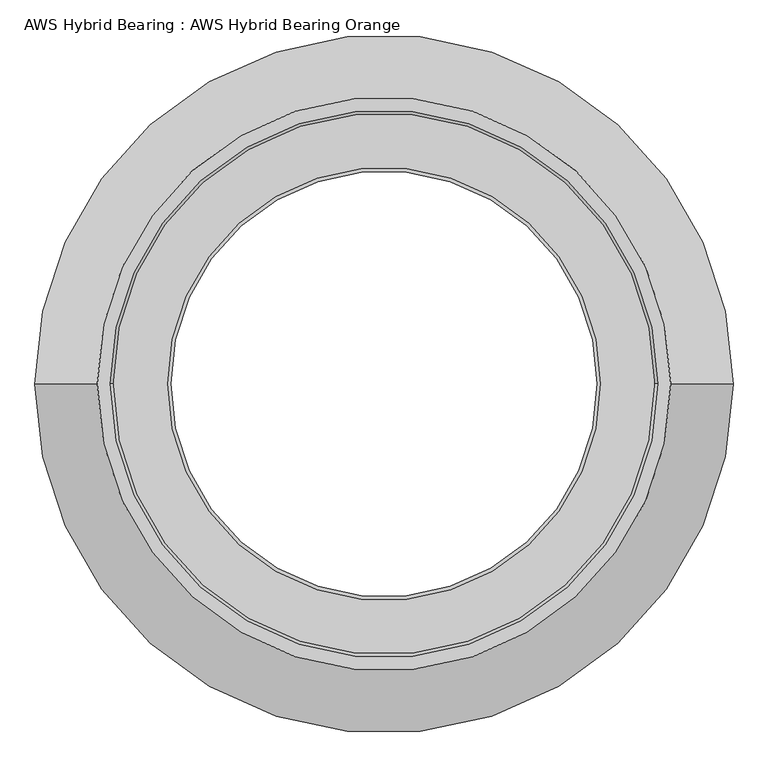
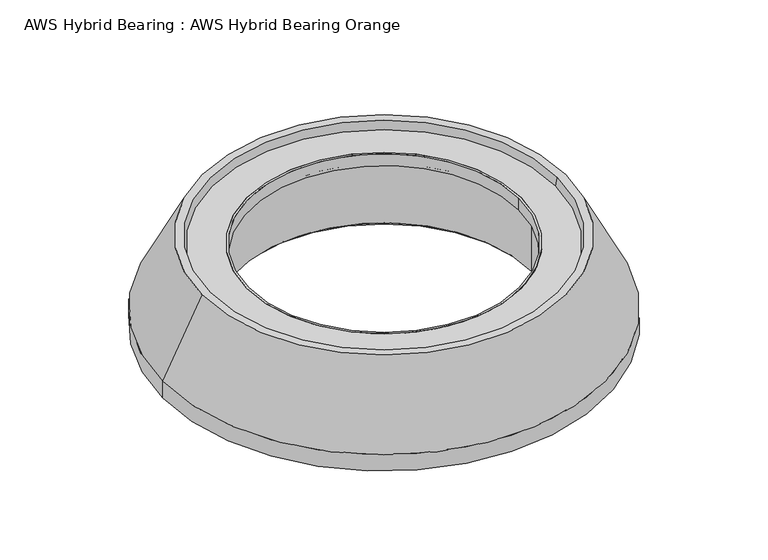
"""IFC4 building model written with IfcOpenShell, lengths in millimetres: proxy geometry, AWS Hybrid Bearing : AWS Hybrid Bearing Orange."""

from ifc_helpers import new_model, si_unit, frame, origin, origin_with_axes, place, context, project, spatial, polyline, circle_curve, source, transform, mapped, element, save
from ifc_brep_helpers import plane_surface, cylinder_surface, revolved_surface, advanced_brep


def aws_hybrid_bearing_aws_hybrid_bearing_orange_4bd7e090(model_context):
    return source(origin(), model_context, "Body", "AdvancedBrep", [
        advanced_brep(
        [(317.5, 0.0, -40.0), (-317.5, 0.0, -40.0), (-317.5, 0.0, -66.3909386), (317.5, 0.0, -66.3909386), (312.5, 0.0, -68.9937739), (-312.5, 0.0, -68.9937739), (-312.5, 0.0, -40.0), (312.5, 0.0, -40.0), (342.5, 0.0, -230.0), (-342.5, 0.0, -230.0), (-342.5, 0.0, -90.0), (342.5, 0.0, -90.0), (347.5, 0.0, -87.3971647), (-347.5, 0.0, -87.3971647), (-347.5, 0.0, -227.9289322), (347.5, 0.0, -227.9289322), (-359.5710678, 0.0, -240.0), (359.5710678, 0.0, -240.0), (352.5, 0.0, -240.0), (-352.5, 0.0, -240.0)],
        [
            (0, 1, circle_curve(frame((0.0, 0.0, -40.0), z_axis=(0.0, 0.0, -1.0), x_axis=(-1.0, 0.0, 0.0)), 317.5)),
            (1, 2),
            (2, 3, circle_curve(frame((0.0, 0.0, -66.3909386), z_axis=(0.0, 0.0, 1.0), x_axis=(-1.0, 0.0, 0.0)), 317.5)),
            (3, 0),
            (4, 5, circle_curve(frame((0.0, 0.0, -68.9937739), z_axis=(0.0, 0.0, -1.0), x_axis=(-1.0, 0.0, 0.0)), 312.5)),
            (5, 6),
            (6, 7, circle_curve(frame((0.0, 0.0, -40.0), z_axis=(0.0, 0.0, 1.0), x_axis=(-1.0, 0.0, 0.0)), 312.5)),
            (7, 4),
            (8, 9, circle_curve(frame((0.0, 0.0, -230.0), z_axis=(0.0, 0.0, -1.0), x_axis=(-1.0, 0.0, 0.0)), 342.5)),
            (9, 10),
            (10, 11, circle_curve(frame((0.0, 0.0, -90.0), z_axis=(0.0, 0.0, 1.0), x_axis=(-1.0, 0.0, 0.0)), 342.5)),
            (11, 8),
            (12, 13, circle_curve(frame((0.0, 0.0, -87.3971647), z_axis=(0.0, 0.0, -1.0), x_axis=(-1.0, 0.0, 0.0)), 347.5)),
            (13, 14),
            (14, 15, circle_curve(frame((0.0, 0.0, -227.9289322), z_axis=(0.0, 0.0, 1.0), x_axis=(-1.0, 0.0, 0.0)), 347.5)),
            (15, 12),
            (1, 0, circle_curve(frame((0.0, 0.0, -40.0), z_axis=(0.0, 0.0, -1.0), x_axis=(1.0, 0.0, 0.0)), 317.5)),
            (3, 2, circle_curve(frame((0.0, 0.0, -66.3909386), z_axis=(0.0, 0.0, 1.0), x_axis=(1.0, 0.0, 0.0)), 317.5)),
            (6, 7, circle_curve(frame((0.0, 0.0, -40.0), z_axis=(0.0, 0.0, -1.0), x_axis=(1.0, 0.0, 0.0)), 312.5)),
            (5, 4, circle_curve(frame((0.0, 0.0, -68.9937739), z_axis=(0.0, 0.0, -1.0), x_axis=(1.0, 0.0, 0.0)), 312.5)),
            (9, 8, circle_curve(frame((0.0, 0.0, -230.0), z_axis=(0.0, 0.0, -1.0), x_axis=(1.0, 0.0, 0.0)), 342.5)),
            (11, 10, circle_curve(frame((0.0, 0.0, -90.0), z_axis=(0.0, 0.0, 1.0), x_axis=(1.0, 0.0, 0.0)), 342.5)),
            (16, 17, circle_curve(frame((0.0, 0.0, -240.0), z_axis=(0.0, 0.0, -1.0), x_axis=(1.0, 0.0, 0.0)), 359.5710678)),
            (17, 16, circle_curve(frame((0.0, 0.0, -240.0), z_axis=(0.0, 0.0, -1.0), x_axis=(-1.0, 0.0, 0.0)), 359.5710678)),
            (18, 19, circle_curve(frame((0.0, 0.0, -240.0), z_axis=(0.0, 0.0, 1.0), x_axis=(1.0, 0.0, 0.0)), 352.5)),
            (19, 18, circle_curve(frame((0.0, 0.0, -240.0), z_axis=(0.0, 0.0, 1.0), x_axis=(-1.0, 0.0, 0.0)), 352.5)),
            (13, 12, circle_curve(frame((0.0, 0.0, -87.3971647), z_axis=(0.0, 0.0, -1.0), x_axis=(1.0, 0.0, 0.0)), 347.5)),
            (15, 14, circle_curve(frame((0.0, 0.0, -227.9289322), z_axis=(0.0, 0.0, 1.0), x_axis=(1.0, 0.0, 0.0)), 347.5)),
            (10, 5),
            (4, 11),
            (19, 9),
            (8, 18),
            (14, 16),
            (17, 15),
            (2, 13),
            (12, 3),
        ],
        [
            cylinder_surface(frame((0.0, 0.0, 0.0), z_axis=(0.0, 0.0, 1.0), x_axis=(-1.0, 0.0, 0.0)), 317.5),
            revolved_surface(polyline([(-312.5, 0.0, -40.0), (-312.5, 0.0, -68.9937739)]), (0.0, 0.0, 0.0), (0.0, 0.0, 1.0)),
            revolved_surface(polyline([(-342.5, 0.0, -90.0), (-342.5, 0.0, -230.0)]), (0.0, 0.0, 0.0), (0.0, 0.0, 1.0)),
            cylinder_surface(frame((0.0, 0.0, 0.0), z_axis=(0.0, 0.0, 1.0), x_axis=(-1.0, 0.0, 0.0)), 347.5),
            cylinder_surface(origin_with_axes(), 317.5),
            plane_surface(frame((0.0, 0.0, -40.0), z_axis=(0.0, 0.0, 1.0), x_axis=(1.0, 0.0, 0.0))),
            revolved_surface(polyline([(312.5, 0.0, -40.0), (312.5, 0.0, -68.9937739)]), (0.0, 0.0, 0.0), (0.0, 0.0, 1.0)),
            revolved_surface(polyline([(342.5, 0.0, -90.0), (342.5, 0.0, -230.0)]), (0.0, 0.0, 0.0), (0.0, 0.0, 1.0)),
            plane_surface(frame((0.0, 0.0, -240.0), z_axis=(0.0, 0.0, -1.0), x_axis=(1.0, 0.0, 0.0))),
            cylinder_surface(origin_with_axes(), 347.5),
            revolved_surface(polyline([(-312.5, 0.0, -68.9937739), (-342.5, 0.0, -90.0)]), (0.0, 0.0, 0.0), (0.0, 0.0, 1.0)),
            revolved_surface(polyline([(-342.5, 0.0, -230.0), (-352.5, 0.0, -240.0)]), (0.0, 0.0, 0.0), (0.0, 0.0, 1.0)),
            revolved_surface(polyline([(-359.5710678, 0.0, -240.0), (-347.5, 0.0, -227.9289322)]), (0.0, 0.0, 0.0), (0.0, 0.0, 1.0)),
            revolved_surface(polyline([(-347.5, 0.0, -87.3971647), (-317.5, 0.0, -66.3909386)]), (0.0, 0.0, 0.0), (0.0, 0.0, 1.0)),
            revolved_surface(polyline([(312.5, 0.0, -68.9937739), (342.5, 0.0, -90.0)]), (0.0, 0.0, 0.0), (0.0, 0.0, 1.0)),
            revolved_surface(polyline([(342.5, 0.0, -230.0), (352.5, 0.0, -240.0)]), (0.0, 0.0, 0.0), (0.0, 0.0, 1.0)),
            revolved_surface(polyline([(359.5710678, 0.0, -240.0), (347.5, 0.0, -227.9289322)]), (0.0, 0.0, 0.0), (0.0, 0.0, 1.0)),
            revolved_surface(polyline([(347.5, 0.0, -87.3971647), (317.5, 0.0, -66.3909386)]), (0.0, 0.0, 0.0), (0.0, 0.0, 1.0)),
        ],
        [
            (0, [[1, 2, 3, 4]]),
            (1, [[5, 6, 7, 8]]),
            (2, [[9, 10, 11, 12]]),
            (3, [[13, 14, 15, 16]]),
            (4, [[17, -4, 18, -2]]),
            (5, [[-17, -1], [19, -7]]),
            (6, [[20, -8, -19, -6]]),
            (7, [[21, -12, 22, -10]]),
            (8, [[23, 24], [25, 26]]),
            (9, [[27, -16, 28, -14]]),
            (10, [[-11, 29, -5, 30]]),
            (11, [[-26, 31, -9, 32]]),
            (12, [[-15, 33, -24, 34]]),
            (13, [[-3, 35, -13, 36]]),
            (14, [[-22, -30, -20, -29]]),
            (15, [[-25, -32, -21, -31]]),
            (16, [[-28, -34, -23, -33]]),
            (17, [[-18, -36, -27, -35]]),
        ],
    ),
        advanced_brep(
        [(512.5, 0.0, -200.0), (-512.5, 0.0, -200.0), (-512.5, 0.0, -240.0), (512.5, 0.0, -240.0), (420.7854191, 0.0, -20.0), (-420.7854191, 0.0, -20.0), (397.5, 0.0, -40.0), (-397.5, 0.0, -40.0), (-401.7511312, 0.0, -20.0), (401.7511312, 0.0, -20.0), (317.5, 0.0, -40.0), (-317.5, 0.0, -40.0), (-359.5710678, 0.0, -240.0), (359.5710678, 0.0, -240.0), (317.5, 0.0, -66.3909386), (-317.5, 0.0, -66.3909386), (347.5, 0.0, -87.3971647), (347.5, 0.0, -227.9289322), (-347.5, 0.0, -227.9289322), (-347.5, 0.0, -87.3971647)],
        [
            (0, 1, circle_curve(frame((0.0, 0.0, -200.0), z_axis=(0.0, 0.0, -1.0), x_axis=(-1.0, 0.0, 0.0)), 512.5)),
            (1, 2),
            (2, 3, circle_curve(frame((0.0, 0.0, -240.0), z_axis=(0.0, 0.0, 1.0), x_axis=(-1.0, 0.0, 0.0)), 512.5)),
            (3, 0),
            (0, 4),
            (4, 5, circle_curve(frame((0.0, 0.0, -20.0), z_axis=(0.0, 0.0, -1.0), x_axis=(-1.0, 0.0, 0.0)), 420.7854191)),
            (5, 1),
            (6, 7, circle_curve(frame((0.0, 0.0, -40.0), z_axis=(0.0, 0.0, -1.0), x_axis=(-1.0, 0.0, 0.0)), 397.5)),
            (7, 8),
            (8, 9, circle_curve(frame((0.0, 0.0, -20.0), z_axis=(0.0, 0.0, 1.0), x_axis=(-1.0, 0.0, 0.0)), 401.7511312)),
            (9, 6),
            (6, 7, circle_curve(frame((0.0, 0.0, -40.0), z_axis=(0.0, 0.0, 1.0), x_axis=(1.0, 0.0, 0.0)), 397.5)),
            (10, 11, circle_curve(frame((0.0, 0.0, -40.0), z_axis=(0.0, 0.0, -1.0), x_axis=(-1.0, 0.0, 0.0)), 317.5)),
            (11, 10, circle_curve(frame((0.0, 0.0, -40.0), z_axis=(0.0, 0.0, -1.0), x_axis=(1.0, 0.0, 0.0)), 317.5)),
            (2, 3, circle_curve(frame((0.0, 0.0, -240.0), z_axis=(0.0, 0.0, -1.0), x_axis=(1.0, 0.0, 0.0)), 512.5)),
            (12, 13, circle_curve(frame((0.0, 0.0, -240.0), z_axis=(0.0, 0.0, 1.0), x_axis=(-1.0, 0.0, 0.0)), 359.5710678)),
            (13, 12, circle_curve(frame((0.0, 0.0, -240.0), z_axis=(0.0, 0.0, 1.0), x_axis=(1.0, 0.0, 0.0)), 359.5710678)),
            (1, 0, circle_curve(frame((0.0, 0.0, -200.0), z_axis=(0.0, 0.0, -1.0), x_axis=(1.0, 0.0, 0.0)), 512.5)),
            (5, 4, circle_curve(frame((0.0, 0.0, -20.0), z_axis=(0.0, 0.0, -1.0), x_axis=(1.0, 0.0, 0.0)), 420.7854191)),
            (8, 9, circle_curve(frame((0.0, 0.0, -20.0), z_axis=(0.0, 0.0, -1.0), x_axis=(1.0, 0.0, 0.0)), 401.7511312)),
            (10, 14),
            (14, 15, circle_curve(frame((0.0, 0.0, -66.3909386), z_axis=(0.0, 0.0, -1.0), x_axis=(-1.0, 0.0, 0.0)), 317.5)),
            (15, 11),
            (16, 17),
            (17, 18, circle_curve(frame((0.0, 0.0, -227.9289322), z_axis=(0.0, 0.0, -1.0), x_axis=(-1.0, 0.0, 0.0)), 347.5)),
            (18, 19),
            (19, 16, circle_curve(frame((0.0, 0.0, -87.3971647), z_axis=(0.0, 0.0, 1.0), x_axis=(-1.0, 0.0, 0.0)), 347.5)),
            (15, 14, circle_curve(frame((0.0, 0.0, -66.3909386), z_axis=(0.0, 0.0, -1.0), x_axis=(1.0, 0.0, 0.0)), 317.5)),
            (16, 19, circle_curve(frame((0.0, 0.0, -87.3971647), z_axis=(0.0, 0.0, 1.0), x_axis=(1.0, 0.0, 0.0)), 347.5)),
            (18, 17, circle_curve(frame((0.0, 0.0, -227.9289322), z_axis=(0.0, 0.0, -1.0), x_axis=(1.0, 0.0, 0.0)), 347.5)),
            (17, 13),
            (12, 18),
            (14, 16),
            (19, 15),
        ],
        [
            cylinder_surface(frame((0.0, 0.0, 0.0), z_axis=(0.0, 0.0, 1.0), x_axis=(-1.0, 0.0, 0.0)), 512.5),
            revolved_surface(polyline([(-512.5, 0.0, -200.0), (-420.7854191, 0.0, -20.0)]), (0.0, 0.0, 0.0), (0.0, 0.0, 1.0)),
            revolved_surface(polyline([(-401.7511312, 0.0, -20.0), (-397.5, 0.0, -40.0)]), (0.0, 0.0, 0.0), (0.0, 0.0, 1.0)),
            plane_surface(frame((0.0, 0.0, -40.0), z_axis=(0.0, 0.0, 1.0), x_axis=(1.0, 0.0, 0.0))),
            plane_surface(frame((0.0, 0.0, -240.0), z_axis=(0.0, 0.0, -1.0), x_axis=(1.0, 0.0, 0.0))),
            cylinder_surface(origin_with_axes(), 512.5),
            revolved_surface(polyline([(512.5, 0.0, -200.0), (420.7854191, 0.0, -20.0)]), (0.0, 0.0, 0.0), (0.0, 0.0, 1.0)),
            plane_surface(frame((0.0, 0.0, -20.0), z_axis=(0.0, 0.0, 1.0), x_axis=(1.0, 0.0, 0.0))),
            revolved_surface(polyline([(401.7511312, 0.0, -20.0), (397.5, 0.0, -40.0)]), (0.0, 0.0, 0.0), (0.0, 0.0, 1.0)),
            revolved_surface(polyline([(-317.5, 0.0, -40.0), (-317.5, 0.0, -66.3909386)]), (0.0, 0.0, 0.0), (0.0, 0.0, 1.0)),
            revolved_surface(polyline([(-347.5, 0.0, -87.3971647), (-347.5, 0.0, -227.9289322)]), (0.0, 0.0, 0.0), (0.0, 0.0, 1.0)),
            revolved_surface(polyline([(317.5, 0.0, -40.0), (317.5, 0.0, -66.3909386)]), (0.0, 0.0, 0.0), (0.0, 0.0, 1.0)),
            revolved_surface(polyline([(347.5, 0.0, -87.3971647), (347.5, 0.0, -227.9289322)]), (0.0, 0.0, 0.0), (0.0, 0.0, 1.0)),
            revolved_surface(polyline([(-347.5, 0.0, -227.9289322), (-359.5710678, 0.0, -240.0)]), (0.0, 0.0, 0.0), (0.0, 0.0, 1.0)),
            revolved_surface(polyline([(-317.5, 0.0, -66.3909386), (-347.5, 0.0, -87.3971647)]), (0.0, 0.0, 0.0), (0.0, 0.0, 1.0)),
            revolved_surface(polyline([(347.5, 0.0, -227.9289322), (359.5710678, 0.0, -240.0)]), (0.0, 0.0, 0.0), (0.0, 0.0, 1.0)),
            revolved_surface(polyline([(317.5, 0.0, -66.3909386), (347.5, 0.0, -87.3971647)]), (0.0, 0.0, 0.0), (0.0, 0.0, 1.0)),
        ],
        [
            (0, [[1, 2, 3, 4]]),
            (1, [[-1, 5, 6, 7]]),
            (2, [[8, 9, 10, 11]]),
            (3, [[-8, 12], [13, 14]]),
            (4, [[-3, 15], [16, 17]]),
            (5, [[-2, 18, -4, -15]]),
            (6, [[-7, 19, -5, -18]]),
            (7, [[-6, -19], [-10, 20]]),
            (8, [[-9, -12, -11, -20]]),
            (9, [[21, 22, 23, -13]]),
            (10, [[24, 25, 26, 27]]),
            (11, [[-21, -14, -23, 28]]),
            (12, [[-24, 29, -26, 30]]),
            (13, [[-25, 31, -16, 32]]),
            (14, [[-22, 33, -27, 34]]),
            (15, [[-30, -32, -17, -31]]),
            (16, [[-28, -34, -29, -33]]),
        ],
    ),
    ])


if __name__ == "__main__":
    model = new_model("IFC4")
    model_context = context("Model", 3, world=origin())
    ifc_project = project(units=[si_unit("LENGTHUNIT", "METRE", prefix="MILLI")], contexts=[model_context])
    site = spatial("IfcSite", under=ifc_project)
    building = spatial("IfcBuilding", under=site)
    placement = place(None, origin())
    aws_hybrid_bearing_aws_hybrid_bearing_orange_shape = aws_hybrid_bearing_aws_hybrid_bearing_orange_4bd7e090(model_context)
    element("IfcBuildingElementProxy", 1, Name="AWS Hybrid Bearing : AWS Hybrid Bearing Orange", ObjectType="AWS Hybrid Bearing : AWS Hybrid Bearing Orange", at=placement, inside=building, context=model_context, shape_type="MappedRepresentation", body=[
        mapped(aws_hybrid_bearing_aws_hybrid_bearing_orange_shape, transform((0.0, 0.0, 0.0), x_axis=(1.0, 0.0, 0.0), y_axis=(0.0, 1.0, 0.0), z_axis=(0.0, 0.0, 1.0))),
    ])
    save(model, "model.ifc")
